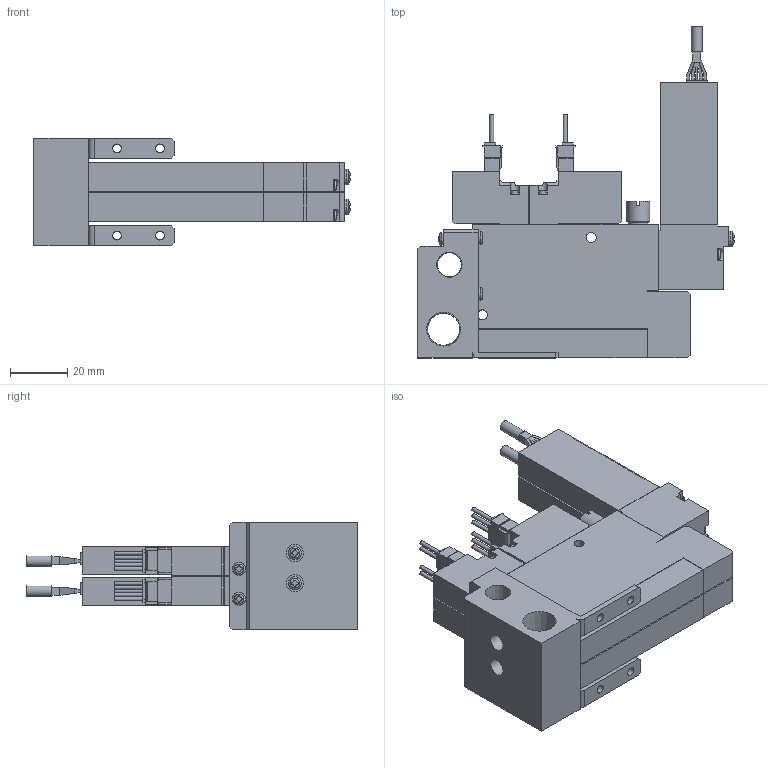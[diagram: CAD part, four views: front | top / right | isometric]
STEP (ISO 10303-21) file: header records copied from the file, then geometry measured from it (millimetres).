
FILE_DESCRIPTION(('STEP AP203'),'1');
FILE_NAME('V9C5WC202_3D.stp','2024-09-04T09:29:38',(' '),(' '),'Spatial InterOp 3D',' ',' ');
FILE_SCHEMA(('CONFIG_CONTROL_DESIGN'));
Length unit declared in the file: millimetre
Products named in the file (5): BSC1M※※V9C5WC202; Solenoid valve W; Pressure Sensor V9; Unit-C; BaseMC20R
Assembly tree (7 placements, depth 2):
  BSC1M※※V9C5WC202
    Solenoid valve W  x2
    Pressure Sensor V9  x2
    Unit-C  x2
    BaseMC20R
Bounding box: 110.35 x 115.8 x 37.5 mm (x, y, z)
Volume: 142075 mm3; surface area: 50115.4 mm2
Topology: 7 solids, 7 shells, 925 faces, 2493 edges, 1642 vertices
Faces by surface type: plane 701, cylinder 178, cone 18, sphere 14, torus 14
Full cylindrical faces by diameter (mm): 1.4 x10, 2.5 x4, 3 x12, 3.5 x16, 3.8 x2, 4 x2, 4.134 x4, 4.5 x8, 5.5 x4, 6 x2, 7 x4, 8 x2, 8.422 x1, 11.233 x1
Entity records: 17117 total; most frequent: CARTESIAN_POINT 3581, DIRECTION 2685, ORIENTED_EDGE 2674, EDGE_CURVE 1337, LINE 989, VECTOR 989, VERTEX_POINT 926, AXIS2_PLACEMENT_3D 848
